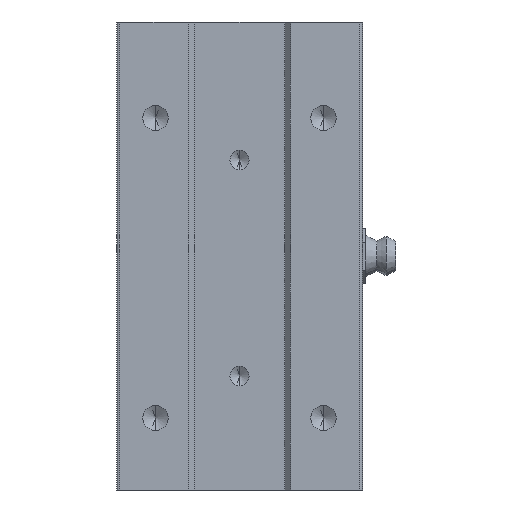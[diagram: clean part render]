
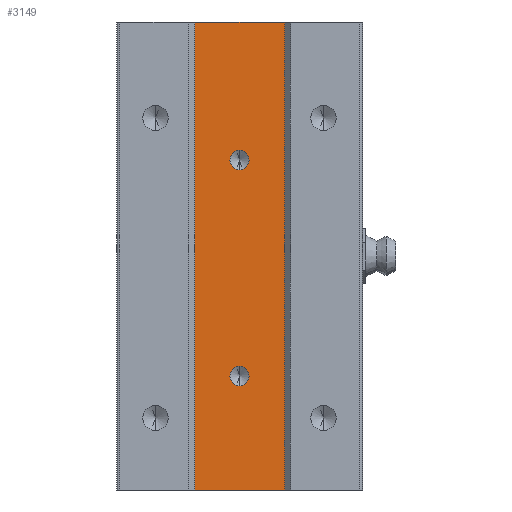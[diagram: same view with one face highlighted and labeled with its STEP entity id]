
A CAD part, front view. The second image highlights one B-rep face of the part: STEP entity #3149.
In plain terms, the highlighted planar face has unit normal (0, -1, 0).
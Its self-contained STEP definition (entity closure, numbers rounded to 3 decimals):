
#537 = EDGE_LOOP ( 'NONE', ( #5307, #13537 ) ) ;
#1076 = VECTOR ( 'NONE', #11903, 1000. ) ;
#1392 = CIRCLE ( 'NONE', #24243, 1.6 ) ;
#1588 = ORIENTED_EDGE ( 'NONE', *, *, #15269, .T. ) ;
#1684 = LINE ( 'NONE', #23462, #12253 ) ;
#2442 = LINE ( 'NONE', #15163, #18629 ) ;
#3149 = ADVANCED_FACE ( 'NONE', ( #14555, #25149, #3273 ), #12379, .F. ) ;
#3273 = FACE_OUTER_BOUND ( 'NONE', #22345, .T. ) ;
#3348 = CARTESIAN_POINT ( 'NONE',  ( 0., -12.5, 16. ) ) ;
#3813 = CARTESIAN_POINT ( 'NONE',  ( 7.5, -12.5, 39. ) ) ;
#3966 = CIRCLE ( 'NONE', #26237, 1.6 ) ;
#4142 = CARTESIAN_POINT ( 'NONE',  ( 0., -12.5, -20. ) ) ;
#4466 = CARTESIAN_POINT ( 'NONE',  ( 0., -12.5, 14.4 ) ) ;
#4560 = LINE ( 'NONE', #24084, #9532 ) ;
#4650 = DIRECTION ( 'NONE',  ( 0., -1., 0. ) ) ;
#5307 = ORIENTED_EDGE ( 'NONE', *, *, #24494, .F. ) ;
#5455 = CIRCLE ( 'NONE', #21485, 1.6 ) ;
#5483 = DIRECTION ( 'NONE',  ( 0., 0., -1. ) ) ;
#6172 = VERTEX_POINT ( 'NONE', #12429 ) ;
#6284 = DIRECTION ( 'NONE',  ( 0., 0., -1. ) ) ;
#6587 = EDGE_CURVE ( 'NONE', #23754, #24654, #6738, .T. ) ;
#6738 = LINE ( 'NONE', #9794, #1076 ) ;
#6755 = DIRECTION ( 'NONE',  ( 0., 0., -1. ) ) ;
#7174 = DIRECTION ( 'NONE',  ( 0., 0., -1. ) ) ;
#7530 = ORIENTED_EDGE ( 'NONE', *, *, #6587, .F. ) ;
#7673 = EDGE_CURVE ( 'NONE', #7787, #9058, #1392, .T. ) ;
#7765 = ORIENTED_EDGE ( 'NONE', *, *, #7673, .F. ) ;
#7787 = VERTEX_POINT ( 'NONE', #19270 ) ;
#8110 = DIRECTION ( 'NONE',  ( 0., -1., 0. ) ) ;
#8224 = EDGE_CURVE ( 'NONE', #16985, #6172, #1684, .T. ) ;
#8253 = CARTESIAN_POINT ( 'NONE',  ( -7.5, -12.5, 39. ) ) ;
#8667 = DIRECTION ( 'NONE',  ( 1., 0., 0. ) ) ;
#9058 = VERTEX_POINT ( 'NONE', #18784 ) ;
#9532 = VECTOR ( 'NONE', #7174, 1000. ) ;
#9634 = EDGE_CURVE ( 'NONE', #24066, #21090, #5455, .T. ) ;
#9794 = CARTESIAN_POINT ( 'NONE',  ( -7.5, -12.5, 39. ) ) ;
#10305 = DIRECTION ( 'NONE',  ( -1., 0., 0. ) ) ;
#11903 = DIRECTION ( 'NONE',  ( 1., 0., 0. ) ) ;
#12253 = VECTOR ( 'NONE', #8667, 1000. ) ;
#12379 = PLANE ( 'NONE',  #17566 ) ;
#12429 = CARTESIAN_POINT ( 'NONE',  ( 7.5, -12.5, -39. ) ) ;
#12661 = ORIENTED_EDGE ( 'NONE', *, *, #8224, .T. ) ;
#13537 = ORIENTED_EDGE ( 'NONE', *, *, #9634, .F. ) ;
#14060 = EDGE_CURVE ( 'NONE', #24654, #6172, #4560, .T. ) ;
#14555 = FACE_BOUND ( 'NONE', #24093, .T. ) ;
#15163 = CARTESIAN_POINT ( 'NONE',  ( -7.5, -12.5, 39. ) ) ;
#15269 = EDGE_CURVE ( 'NONE', #23754, #16985, #2442, .T. ) ;
#15819 = EDGE_CURVE ( 'NONE', #9058, #7787, #25886, .T. ) ;
#16344 = AXIS2_PLACEMENT_3D ( 'NONE', #17321, #4650, #19444 ) ;
#16985 = VERTEX_POINT ( 'NONE', #20484 ) ;
#17321 = CARTESIAN_POINT ( 'NONE',  ( 0., -12.5, -20. ) ) ;
#17566 = AXIS2_PLACEMENT_3D ( 'NONE', #8253, #23048, #10305 ) ;
#18128 = DIRECTION ( 'NONE',  ( 0., -1., 0. ) ) ;
#18458 = CARTESIAN_POINT ( 'NONE',  ( -7.5, -12.5, 39. ) ) ;
#18629 = VECTOR ( 'NONE', #6755, 1000. ) ;
#18784 = CARTESIAN_POINT ( 'NONE',  ( 0., -12.5, -21.6 ) ) ;
#18901 = DIRECTION ( 'NONE',  ( 0., -1., 0. ) ) ;
#19270 = CARTESIAN_POINT ( 'NONE',  ( 0., -12.5, -18.4 ) ) ;
#19444 = DIRECTION ( 'NONE',  ( 0., 0., -1. ) ) ;
#20484 = CARTESIAN_POINT ( 'NONE',  ( -7.5, -12.5, -39. ) ) ;
#20756 = CARTESIAN_POINT ( 'NONE',  ( 0., -12.5, 16. ) ) ;
#20851 = ORIENTED_EDGE ( 'NONE', *, *, #14060, .F. ) ;
#21090 = VERTEX_POINT ( 'NONE', #4466 ) ;
#21485 = AXIS2_PLACEMENT_3D ( 'NONE', #20756, #8110, #22896 ) ;
#22345 = EDGE_LOOP ( 'NONE', ( #12661, #20851, #7530, #1588 ) ) ;
#22896 = DIRECTION ( 'NONE',  ( 0., 0., -1. ) ) ;
#23048 = DIRECTION ( 'NONE',  ( 0., 1., 0. ) ) ;
#23351 = ORIENTED_EDGE ( 'NONE', *, *, #15819, .F. ) ;
#23462 = CARTESIAN_POINT ( 'NONE',  ( -7.5, -12.5, -39. ) ) ;
#23754 = VERTEX_POINT ( 'NONE', #18458 ) ;
#24019 = CARTESIAN_POINT ( 'NONE',  ( 0., -12.5, 17.6 ) ) ;
#24066 = VERTEX_POINT ( 'NONE', #24019 ) ;
#24084 = CARTESIAN_POINT ( 'NONE',  ( 7.5, -12.5, 39. ) ) ;
#24093 = EDGE_LOOP ( 'NONE', ( #23351, #7765 ) ) ;
#24243 = AXIS2_PLACEMENT_3D ( 'NONE', #4142, #18901, #6284 ) ;
#24494 = EDGE_CURVE ( 'NONE', #21090, #24066, #3966, .T. ) ;
#24654 = VERTEX_POINT ( 'NONE', #3813 ) ;
#25149 = FACE_BOUND ( 'NONE', #537, .T. ) ;
#25886 = CIRCLE ( 'NONE', #16344, 1.6 ) ;
#26237 = AXIS2_PLACEMENT_3D ( 'NONE', #3348, #18128, #5483 ) ;
